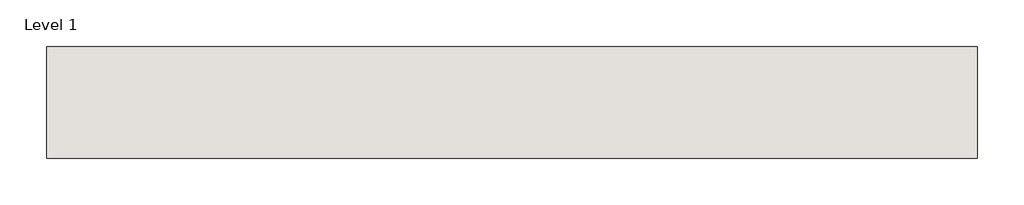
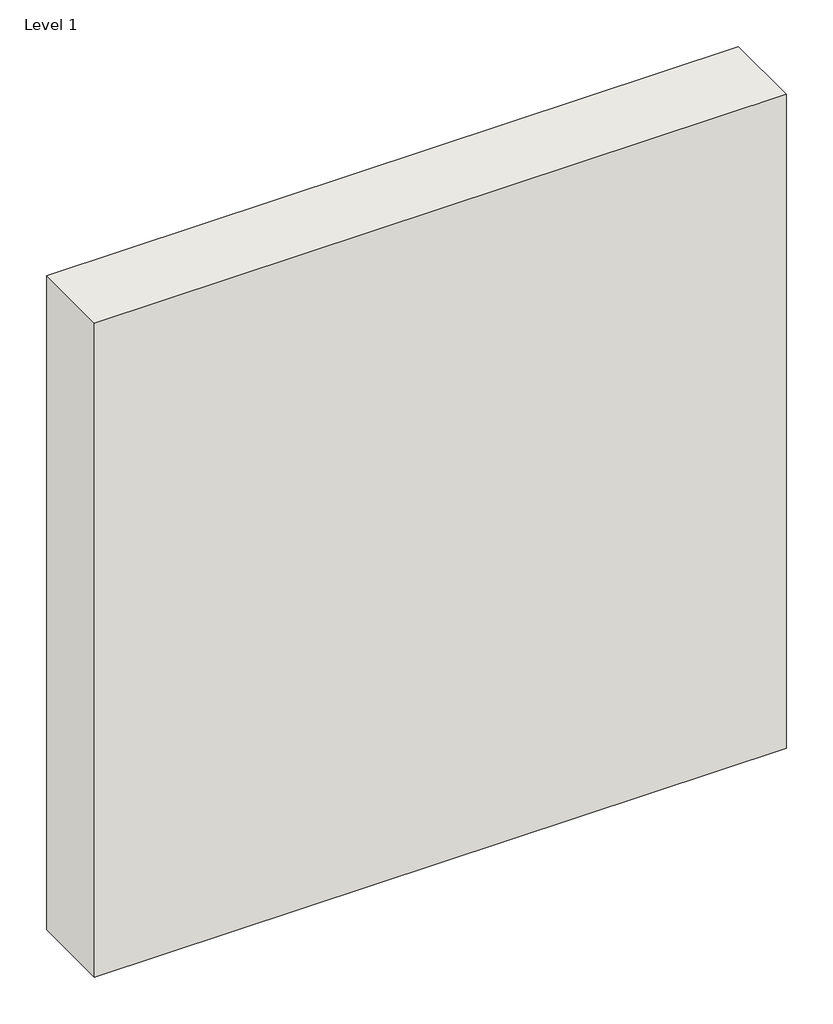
# One storey: 1 wall.
"""IFC4 building model written with IfcOpenShell, lengths in millimetres."""

import ifcopenshell
import ifcopenshell.guid

model = None  # the IFC model being written
_history = None  # IfcOwnerHistory: only IFC2X3 demands one
_inside = {}  # id of a spatial element -> (the spatial element, [elements in it])
_under = {}  # id of a project, library or spatial element -> (it, [spatial elements below it])
_declared = {}  # id of a project -> (the project, [libraries it declares])
_typed = {}  # id of a type object -> (the type object, [elements of that type])
_made_of = {}  # id of a material, layer set ... -> (it, [elements and type objects made of it])


def new_model(schema):
    """Start an empty IFC model of exactly this schema.

    Asked for "IFC4X3", IfcOpenShell would pick the latest addendum, in which some entities
    have other attributes; the version numbers below select the first issue.
    IFC2X3 requires an IfcOwnerHistory on every rooted entity: one is made here for all.
    """
    global model, _history
    if schema == "IFC4X3":
        model = ifcopenshell.file(schema_version=(4, 3, 0, 0))
    else:
        model = ifcopenshell.file(schema=schema)
    _inside.clear()
    _under.clear()
    _declared.clear()
    _typed.clear()
    _made_of.clear()
    _history = None
    if model.schema == "IFC2X3":
        org = make("IfcOrganization", Name="unknown")
        user = make(
            "IfcPersonAndOrganization",
            ThePerson=make("IfcPerson", FamilyName="unknown"),
            TheOrganization=org,
        )
        app = make(
            "IfcApplication",
            ApplicationDeveloper=org,
            Version="unknown",
            ApplicationFullName="unknown",
            ApplicationIdentifier="unknown",
        )
        _history = make(
            "IfcOwnerHistory",
            OwningUser=user,
            OwningApplication=app,
            ChangeAction="ADDED",
            CreationDate=0,
        )
    return model


def make(cls, **values):
    """One entity of the class cls with the attributes given. An attribute that is None is left unset."""
    return model.create_entity(
        cls, **{name: value for name, value in values.items() if value is not None}
    )


def rooted(cls, **values):
    """An entity with a GlobalId (a new one), such as an element, a storey or a relation."""
    return make(cls, GlobalId=ifcopenshell.guid.new(), OwnerHistory=_history, **values)


def si_unit(unit_type, name, prefix=None):
    """IfcSIUnit, for example si_unit("LENGTHUNIT", "METRE", prefix="MILLI")."""
    return make("IfcSIUnit", UnitType=unit_type, Prefix=prefix, Name=name)


def assignment(units):
    """IfcUnitAssignment: the units of a project."""
    return None if units is None else make("IfcUnitAssignment", Units=units)


def point(xyz):
    """IfcCartesianPoint."""
    return None if xyz is None else make("IfcCartesianPoint", Coordinates=xyz)


def direction(xyz):
    """IfcDirection."""
    return None if xyz is None else make("IfcDirection", DirectionRatios=xyz)


def frame(location, z_axis=None, x_axis=None):
    """IfcAxis2Placement3D, a coordinate frame: its origin and axes. An axis left out is left unset."""
    return make(
        "IfcAxis2Placement3D",
        Location=point(location),
        Axis=direction(z_axis),
        RefDirection=direction(x_axis),
    )


def origin():
    """The frame at (0, 0, 0) with its axes left unset."""
    return frame((0.0, 0.0, 0.0))


def origin_with_axes():
    """The frame at (0, 0, 0) with the z axis (0, 0, 1) and the x axis (1, 0, 0) written out."""
    return frame((0.0, 0.0, 0.0), z_axis=(0.0, 0.0, 1.0), x_axis=(1.0, 0.0, 0.0))


def place(relative_to, where):
    """IfcLocalPlacement: puts the frame where relative to a parent placement (None: the world)."""
    return make(
        "IfcLocalPlacement", PlacementRelTo=relative_to, RelativePlacement=where
    )


def context(
    kind, dimensions, precision=None, world=None, true_north=None, identifier=None
):
    """IfcGeometricRepresentationContext, for example the 3D "Model" context."""
    return make(
        "IfcGeometricRepresentationContext",
        ContextIdentifier=identifier,
        ContextType=kind,
        CoordinateSpaceDimension=dimensions,
        Precision=precision,
        WorldCoordinateSystem=world,
        TrueNorth=true_north,
    )


def project(units=None, contexts=None):
    """IfcProject with its units and contexts."""
    return rooted(
        "IfcProject",
        Name="project",
        RepresentationContexts=contexts,
        UnitsInContext=assignment(units),
    )


def spatial(cls, under=None, at=None, **own):
    """A site, building, storey or space (cls), placed at a placement, below another one or the project."""
    s = rooted(cls, ObjectPlacement=at, **own)
    if under is not None:
        _under.setdefault(under.id(), (under, []))[1].append(s)
    return s


def polyline(points):
    """IfcPolyline through the points."""
    return make("IfcPolyline", Points=[point(p) for p in points])


def outline(outer, holes=None, kind="AREA"):
    """IfcArbitraryClosedProfileDef: a profile drawn as a closed curve; with holes, ...WithVoids."""
    if holes is None:
        return make("IfcArbitraryClosedProfileDef", ProfileType=kind, OuterCurve=outer)
    return make(
        "IfcArbitraryProfileDefWithVoids",
        ProfileType=kind,
        OuterCurve=outer,
        InnerCurves=holes,
    )


def extrude(swept, where, along, depth):
    """IfcExtrudedAreaSolid: the profile swept, set in the frame where, extruded along a direction by depth."""
    return make(
        "IfcExtrudedAreaSolid",
        SweptArea=swept,
        Position=where,
        ExtrudedDirection=direction(along),
        Depth=depth,
    )


def shape(context_of_items, identifier, shape_type, items):
    """IfcShapeRepresentation: the items that make up one representation, for example the "Body"."""
    return make(
        "IfcShapeRepresentation",
        ContextOfItems=context_of_items,
        RepresentationIdentifier=identifier,
        RepresentationType=shape_type,
        Items=items,
    )


def made_of(thing, what):
    """Note that an element or type object is made of a material, layer set ...; save() writes the relation."""
    if what is not None:
        _made_of.setdefault(what.id(), (what, []))[1].append(thing)
    return thing


def element(
    cls,
    number,
    at=None,
    inside=None,
    cuts=None,
    type_object=None,
    material=None,
    context=None,
    identifier="Body",
    shape_type=None,
    held_by="IfcProductDefinitionShape",
    body=None,
    shapes=None,
    **own,
):
    """One element of the class cls, such as IfcWall. Its Tag is "e" and its number.

    at: its placement. inside: the storey or other place that contains it. cuts: it is an
    opening in that element (IfcRelVoidsElement). A single representation is given by context,
    identifier, shape_type and body (its items); several are given by shapes. held_by: the class
    of the entity that holds the representations. save() writes the other relations.
    """
    e = rooted(cls, Tag="e%d" % number, ObjectPlacement=at, **own)
    if body is not None:
        shapes = [shape(context, identifier, shape_type, body)]
    if shapes is not None:
        e.Representation = make(held_by, Representations=shapes)
    if inside is not None:
        _inside.setdefault(inside.id(), (inside, []))[1].append(e)
    if cuts is not None:
        rooted(
            "IfcRelVoidsElement", RelatingBuildingElement=cuts, RelatedOpeningElement=e
        )
    if type_object is not None:
        _typed.setdefault(type_object.id(), (type_object, []))[1].append(e)
    return made_of(e, material)


def aggregate(whole, parts):
    """IfcRelAggregates: a whole, such as a stair, and the parts it consists of."""
    return rooted("IfcRelAggregates", RelatingObject=whole, RelatedObjects=parts)


def save(model, path):
    """Write the relations noted so far, then the file.

    IfcRelAggregates (storeys below a building ...), IfcRelContainedInSpatialStructure (elements
    in a storey), IfcRelDefinesByType, IfcRelAssociatesMaterial and IfcRelDeclares: one each for
    every whole, place, type object, material and project.
    """
    for whole, parts in _under.values():
        aggregate(whole, parts)
    for where, things in _inside.values():
        rooted(
            "IfcRelContainedInSpatialStructure",
            RelatedElements=things,
            RelatingStructure=where,
        )
    for kind, things in _typed.values():
        rooted("IfcRelDefinesByType", RelatedObjects=things, RelatingType=kind)
    for what, things in _made_of.values():
        rooted("IfcRelAssociatesMaterial", RelatedObjects=things, RelatingMaterial=what)
    for by, libraries in _declared.values():
        rooted("IfcRelDeclares", RelatingContext=by, RelatedDefinitions=libraries)
    model.write(path)


model = new_model("IFC4")

# Units and contexts
model_context = context("Model", 3, world=origin())
ifc_project = project(units=[si_unit("LENGTHUNIT", "METRE", prefix="MILLI")], contexts=[model_context])

# Site, building, storey
site = spatial("IfcSite", under=ifc_project)
building = spatial("IfcBuilding", under=site)
storey = spatial("IfcBuildingStorey", under=building, Name="Level 1", Elevation=0.0)

# Wall
placement = place(None, origin())
element("IfcWall", 1, ObjectType="GYPTEC-DIVISÓRIA 120 BA13Gold", at=placement, inside=storey, context=model_context, shape_type="SweptSolid", body=[
    extrude(outline(polyline([(1000.0, 0.0), (0.0, 0.0), (0.0, 120.0), (1000.0, 120.0), (1000.0, 0.0)])), origin_with_axes(), (0.0, 0.0, 1.0), 1000.0),
])

save(model, "model.ifc")
